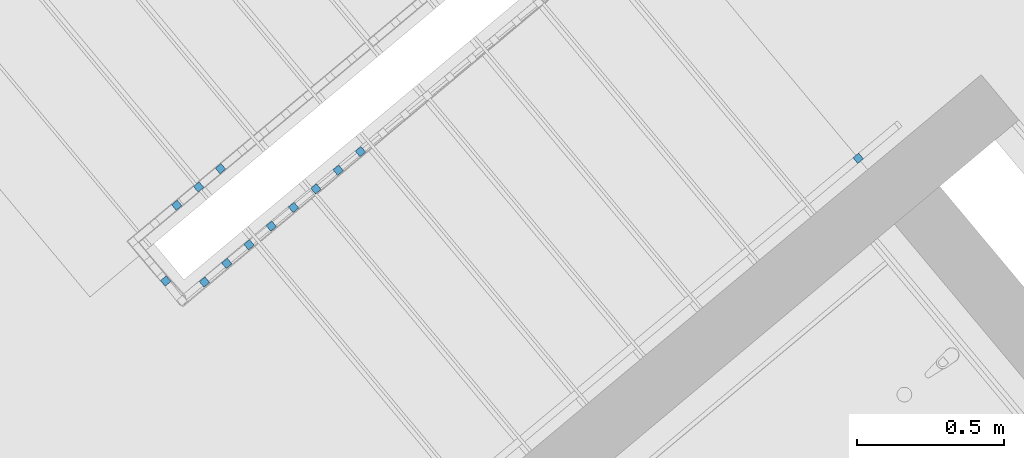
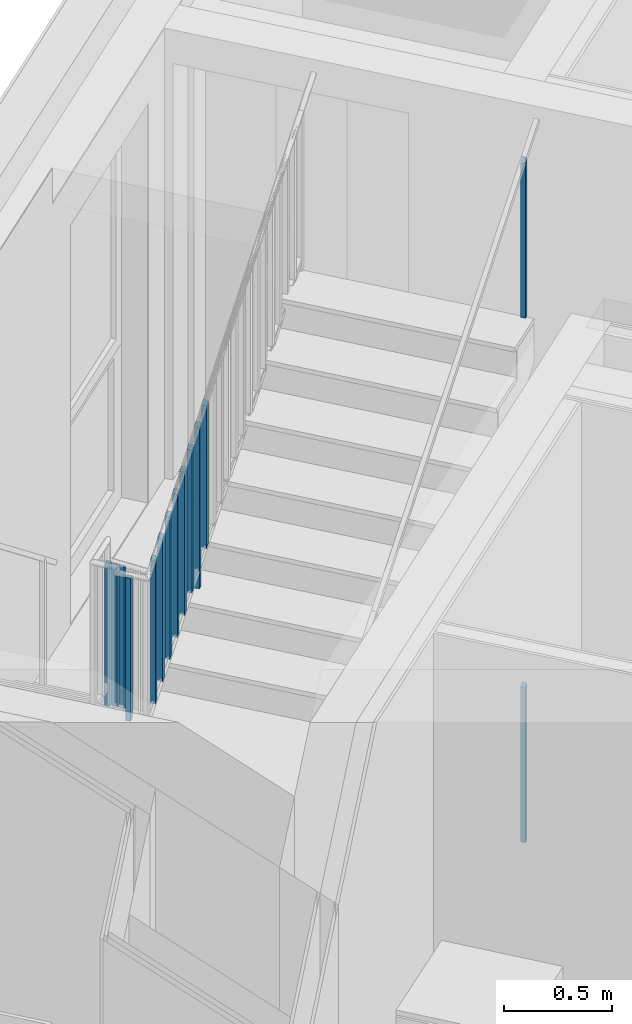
# One storey, part 42 of 53: 14 building element parts, 3 elements without a shape of their own.
"""IFC4 building model written with IfcOpenShell, lengths in metres."""

from ifc_helpers import new_model, entity, si_unit, converted_unit, derived_unit, direction, frame, origin_with_axes, place, context, subcontext, project, spatial, polygons, material, type_object, element, aggregate, save


model = new_model("IFC4")

# Units and contexts
model_context = context("Model", 3, precision=1e-05, world=origin_with_axes(), true_north=direction((0.0, 1.0)))
body_context = subcontext(model_context, "Body", "Model", "MODEL_VIEW")
ifc_project = project(units=[si_unit("LENGTHUNIT", "METRE"), si_unit("AREAUNIT", "SQUARE_METRE"), si_unit("VOLUMEUNIT", "CUBIC_METRE"), converted_unit("PLANEANGLEUNIT", "DEGREE", entity("IfcPlaneAngleMeasure", 0.0174532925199), si_unit("PLANEANGLEUNIT", "RADIAN"), dimensions=[0, 0, 0, 0, 0, 0, 0]), converted_unit("TIMEUNIT", "Year", entity("IfcTimeMeasure", 31556926.0), si_unit("TIMEUNIT", "SECOND"), dimensions=[0, 0, 1, 0, 0, 0, 0]), si_unit("MASSUNIT", "GRAM", prefix="KILO"), si_unit("THERMODYNAMICTEMPERATUREUNIT", "DEGREE_CELSIUS"), si_unit("LUMINOUSINTENSITYUNIT", "LUMEN"), si_unit("ENERGYUNIT", "JOULE", prefix="MEGA"), derived_unit("THERMALCONDUCTANCEUNIT", [(si_unit("POWERUNIT", "WATT"), 1), (si_unit("LENGTHUNIT", "METRE"), -1), (si_unit("THERMODYNAMICTEMPERATUREUNIT", "KELVIN"), -1)]), derived_unit("SPECIFICHEATCAPACITYUNIT", [(si_unit("ENERGYUNIT", "JOULE"), 1), (si_unit("MASSUNIT", "GRAM", prefix="KILO"), -1), (si_unit("THERMODYNAMICTEMPERATUREUNIT", "KELVIN"), -1)]), derived_unit("MASSDENSITYUNIT", [(si_unit("MASSUNIT", "GRAM", prefix="KILO"), 1), (si_unit("VOLUMEUNIT", "CUBIC_METRE"), -1)])], contexts=[model_context])

# Site, building, storey, space
site_placement = place(None, frame((-0.00153261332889, -0.00661245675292, 0.0), z_axis=(0.0, 0.0, 1.0), x_axis=(1.0, 0.0, 0.0)))
site = spatial("IfcSite", under=ifc_project, at=site_placement, Name="Gelände", CompositionType="ELEMENT")
building_placement = place(site_placement, origin_with_axes())
building = spatial("IfcBuilding", under=site, at=building_placement, Name="Gebäude", CompositionType="ELEMENT")
storey_placement = place(building_placement, frame((0.0, 0.0, 2.74), z_axis=(0.0, 0.0, 1.0), x_axis=(1.0, 0.0, 0.0)))
storey = spatial("IfcBuildingStorey", under=building, at=storey_placement, Name="OG1", CompositionType="ELEMENT", Elevation=2.74)
space_1_placement = place(storey_placement, frame((0.186433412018, 25.8823467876, 0.22), z_axis=(0.0, 0.0, 1.0), x_axis=(-0.767365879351, -0.641209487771, 0.0)))
space_1 = spatial("IfcSpace", under=storey, at=space_1_placement, CompositionType="ELEMENT", PredefinedType="NOTDEFINED")

# Railing, building element part
railing_type = type_object("IfcRailingType", Name="Geländerart", PredefinedType="NOTDEFINED")
railing_1_placement = place(space_1_placement, frame((4.02646190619, 2.55537097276, -1.35941176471), z_axis=(0.0, 0.0, 1.0), x_axis=(-0.767365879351, 0.641209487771, 0.0)))
railing_1 = element("IfcRailing", 1, at=railing_1_placement, inside=space_1, type_object=railing_type, Name="Geländer - 002", PredefinedType="NOTDEFINED")
ifc_material = material(Name="BEKLEIDUNG")
building_element_part_1_placement = place(railing_1_placement, origin_with_axes())
building_element_part_1 = element("IfcBuildingElementPart", 2, at=building_element_part_1_placement, material=ifc_material, Name="BEKLEIDUNG", PredefinedType="NOTDEFINED", context=body_context, shape_type="Tessellation", body=[
    polygons([(1.53065542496, 1.32788138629, 1.23941176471), (1.51462518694, 1.34706553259, 1.23941176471), (1.51462518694, 1.34706553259, 2.12710606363), (1.53065542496, 1.32788138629, 2.12710606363), (1.51147127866, 1.31185114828, 1.23941176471), (1.49544104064, 1.33103529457, 1.23941176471), (1.49544104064, 1.33103529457, 2.11171746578), (1.51147127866, 1.31185114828, 2.11171746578)], [[[1, 2, 3, 4]], [[1, 5, 6, 2]], [[2, 6, 7, 3]], [[4, 3, 7, 8]], [[5, 1, 4, 8]], [[6, 5, 8, 7]]], closed=True),
])
aggregate(railing_1, [building_element_part_1])

# Space
space_2_placement = place(storey_placement, frame((0.280300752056, 22.6307267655, 0.22), z_axis=(0.0, 0.0, 1.0), x_axis=(-0.641244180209, 0.767336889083, 0.0)))
space_2 = spatial("IfcSpace", under=storey, at=space_2_placement, CompositionType="ELEMENT", PredefinedType="NOTDEFINED")

# Railing, building element parts
railing_2_placement = place(space_2_placement, frame((1.35982515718, -0.251690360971, -0.17), z_axis=(0.0, 0.0, 1.0), x_axis=(-0.641244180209, -0.767336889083, 0.0)))
railing_2 = element("IfcRailing", 3, at=railing_2_placement, inside=space_2, type_object=railing_type, Name="Geländer - 001", PredefinedType="NOTDEFINED")
building_element_part_2_placement = place(railing_2_placement, origin_with_axes())
building_element_part_2 = element("IfcBuildingElementPart", 4, at=building_element_part_2_placement, material=ifc_material, Name="BEKLEIDUNG", PredefinedType="NOTDEFINED", context=body_context, shape_type="Tessellation", body=[
    polygons([(-1.53388981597, -1.2001382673, 1.58772455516), (-1.51786055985, -1.21932323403, 1.58772455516), (-1.51786055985, -1.21932323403, 2.39522455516), (-1.53388981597, -1.2001382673, 2.39522455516), (-1.51470484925, -1.18410901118, 1.56823254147), (-1.49867559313, -1.20329397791, 1.56823254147), (-1.49867559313, -1.20329397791, 2.37573254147), (-1.51470484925, -1.18410901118, 2.37573254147)], [[[1, 2, 3, 4]], [[1, 5, 6, 2]], [[2, 6, 7, 3]], [[4, 3, 7, 8]], [[5, 1, 4, 8]], [[6, 5, 8, 7]]], closed=True),
])
building_element_part_3_placement = place(railing_2_placement, origin_with_axes())
building_element_part_3 = element("IfcBuildingElementPart", 5, at=building_element_part_3_placement, material=ifc_material, Name="BEKLEIDUNG", PredefinedType="NOTDEFINED", context=body_context, shape_type="Tessellation", body=[
    polygons([(-1.60810102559, -1.2621425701, 1.66312348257), (-1.59207176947, -1.28132753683, 1.66312348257), (-1.59207176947, -1.28132753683, 2.47062348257), (-1.60810102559, -1.2621425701, 2.47062348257), (-1.58891605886, -1.24611331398, 1.64363146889), (-1.57288680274, -1.26529828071, 1.64363146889), (-1.57288680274, -1.26529828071, 2.45113146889), (-1.58891605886, -1.24611331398, 2.45113146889)], [[[1, 2, 3, 4]], [[1, 5, 6, 2]], [[2, 6, 7, 3]], [[4, 3, 7, 8]], [[5, 1, 4, 8]], [[6, 5, 8, 7]]], closed=True),
])
building_element_part_4_placement = place(railing_2_placement, origin_with_axes())
building_element_part_4 = element("IfcBuildingElementPart", 6, at=building_element_part_4_placement, material=ifc_material, Name="BEKLEIDUNG", PredefinedType="NOTDEFINED", context=body_context, shape_type="Tessellation", body=[
    polygons([(-1.6823122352, -1.32414687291, 1.72363814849), (-1.66628297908, -1.34333183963, 1.72363814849), (-1.66628297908, -1.34333183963, 2.53113814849), (-1.6823122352, -1.32414687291, 2.53113814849), (-1.66312726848, -1.30811761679, 1.72363814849), (-1.64709801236, -1.32730258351, 1.72363814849), (-1.64709801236, -1.32730258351, 2.53113814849), (-1.66312726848, -1.30811761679, 2.53113814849)], [[[1, 2, 3, 4]], [[1, 5, 6, 2]], [[2, 6, 7, 3]], [[4, 3, 7, 8]], [[5, 1, 4, 8]], [[6, 5, 8, 7]]], closed=True),
])
building_element_part_5_placement = place(railing_2_placement, origin_with_axes())
building_element_part_5 = element("IfcBuildingElementPart", 7, at=building_element_part_5_placement, material=ifc_material, Name="BEKLEIDUNG", PredefinedType="NOTDEFINED", context=body_context, shape_type="Tessellation", body=[
    polygons([(-1.7035806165, -1.60032774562, 1.80989887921), (-1.6843964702, -1.5842975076, 1.80989887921), (-1.6843964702, -1.5842975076, 2.61739887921), (-1.7035806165, -1.60032774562, 2.61739887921), (-1.71961085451, -1.58114359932, 1.80989887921), (-1.70042670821, -1.5651133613, 1.80989887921), (-1.70042670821, -1.5651133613, 2.61739887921), (-1.71961085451, -1.58114359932, 2.61739887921)], [[[1, 2, 3, 4]], [[1, 5, 6, 2]], [[2, 6, 7, 3]], [[4, 3, 7, 8]], [[5, 1, 4, 8]], [[6, 5, 8, 7]]], closed=True),
])
building_element_part_6_placement = place(railing_2_placement, origin_with_axes())
building_element_part_6 = element("IfcBuildingElementPart", 8, at=building_element_part_6_placement, material=ifc_material, Name="BEKLEIDUNG", PredefinedType="NOTDEFINED", context=body_context, shape_type="Tessellation", body=[
    polygons([(-1.55322027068, -1.58760797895, 1.87805222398), (-1.5692505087, -1.56842383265, 1.87805222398), (-1.5692505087, -1.56842383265, 2.68555222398), (-1.55322027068, -1.58760797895, 2.68555222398), (-1.57240441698, -1.60363821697, 1.86270754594), (-1.588434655, -1.58445407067, 1.86270754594), (-1.588434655, -1.58445407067, 2.67020754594), (-1.57240441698, -1.60363821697, 2.67020754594)], [[[1, 2, 3, 4]], [[1, 5, 6, 2]], [[2, 6, 7, 3]], [[4, 3, 7, 8]], [[5, 1, 4, 8]], [[6, 5, 8, 7]]], closed=True),
])
building_element_part_7_placement = place(railing_2_placement, origin_with_axes())
building_element_part_7 = element("IfcBuildingElementPart", 9, at=building_element_part_7_placement, material=ifc_material, Name="BEKLEIDUNG", PredefinedType="NOTDEFINED", context=body_context, shape_type="Tessellation", body=[
    polygons([(-1.4776060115, -1.52442484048, 1.93853322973), (-1.49363624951, -1.50524069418, 1.93853322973), (-1.49363624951, -1.50524069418, 2.74603322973), (-1.4776060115, -1.52442484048, 2.74603322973), (-1.4967901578, -1.54045507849, 1.92318855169), (-1.51282039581, -1.52127093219, 1.92318855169), (-1.51282039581, -1.52127093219, 2.73068855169), (-1.4967901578, -1.54045507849, 2.73068855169)], [[[1, 2, 3, 4]], [[1, 5, 6, 2]], [[2, 6, 7, 3]], [[4, 3, 7, 8]], [[5, 1, 4, 8]], [[6, 5, 8, 7]]], closed=True),
])
building_element_part_8_placement = place(railing_2_placement, origin_with_axes())
building_element_part_8 = element("IfcBuildingElementPart", 10, at=building_element_part_8_placement, material=ifc_material, Name="BEKLEIDUNG", PredefinedType="NOTDEFINED", context=body_context, shape_type="Tessellation", body=[
    polygons([(-1.40199175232, -1.461241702, 1.99901423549), (-1.41802199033, -1.4420575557, 1.99901423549), (-1.41802199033, -1.4420575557, 2.80651423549), (-1.40199175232, -1.461241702, 2.80651423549), (-1.42117589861, -1.47727194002, 1.98366955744), (-1.43720613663, -1.45808779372, 1.98366955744), (-1.43720613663, -1.45808779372, 2.79116955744), (-1.42117589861, -1.47727194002, 2.79116955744)], [[[1, 2, 3, 4]], [[1, 5, 6, 2]], [[2, 6, 7, 3]], [[4, 3, 7, 8]], [[5, 1, 4, 8]], [[6, 5, 8, 7]]], closed=True),
])
building_element_part_9_placement = place(railing_2_placement, origin_with_axes())
building_element_part_9 = element("IfcBuildingElementPart", 11, at=building_element_part_9_placement, material=ifc_material, Name="BEKLEIDUNG", PredefinedType="NOTDEFINED", context=body_context, shape_type="Tessellation", body=[
    polygons([(-1.32637749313, -1.39805856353, 2.05949524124), (-1.34240773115, -1.37887441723, 2.05949524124), (-1.34240773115, -1.37887441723, 2.86699524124), (-1.32637749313, -1.39805856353, 2.86699524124), (-1.34556163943, -1.41408880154, 2.04415056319), (-1.36159187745, -1.39490465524, 2.04415056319), (-1.36159187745, -1.39490465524, 2.85165056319), (-1.34556163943, -1.41408880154, 2.85165056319)], [[[1, 2, 3, 4]], [[1, 5, 6, 2]], [[2, 6, 7, 3]], [[4, 3, 7, 8]], [[5, 1, 4, 8]], [[6, 5, 8, 7]]], closed=True),
])
building_element_part_10_placement = place(railing_2_placement, origin_with_axes())
building_element_part_10 = element("IfcBuildingElementPart", 12, at=building_element_part_10_placement, material=ifc_material, Name="BEKLEIDUNG", PredefinedType="NOTDEFINED", context=body_context, shape_type="Tessellation", body=[
    polygons([(-1.25076323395, -1.33487542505, 2.11997624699), (-1.26679347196, -1.31569127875, 2.11997624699), (-1.26679347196, -1.31569127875, 2.92747624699), (-1.25076323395, -1.33487542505, 2.92747624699), (-1.26994738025, -1.35090566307, 2.10463156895), (-1.28597761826, -1.33172151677, 2.10463156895), (-1.28597761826, -1.33172151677, 2.91213156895), (-1.26994738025, -1.35090566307, 2.91213156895)], [[[1, 2, 3, 4]], [[1, 5, 6, 2]], [[2, 6, 7, 3]], [[4, 3, 7, 8]], [[5, 1, 4, 8]], [[6, 5, 8, 7]]], closed=True),
])
building_element_part_11_placement = place(railing_2_placement, origin_with_axes())
building_element_part_11 = element("IfcBuildingElementPart", 13, at=building_element_part_11_placement, material=ifc_material, Name="BEKLEIDUNG", PredefinedType="NOTDEFINED", context=body_context, shape_type="Tessellation", body=[
    polygons([(-1.17514897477, -1.27169228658, 2.18045725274), (-1.19117921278, -1.25250814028, 2.18045725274), (-1.19117921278, -1.25250814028, 2.98795725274), (-1.17514897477, -1.27169228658, 2.98795725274), (-1.19433312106, -1.28772252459, 2.1651125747), (-1.21036335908, -1.26853837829, 2.1651125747), (-1.21036335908, -1.26853837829, 2.9726125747), (-1.19433312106, -1.28772252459, 2.9726125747)], [[[1, 2, 3, 4]], [[1, 5, 6, 2]], [[2, 6, 7, 3]], [[4, 3, 7, 8]], [[5, 1, 4, 8]], [[6, 5, 8, 7]]], closed=True),
])
building_element_part_12_placement = place(railing_2_placement, origin_with_axes())
building_element_part_12 = element("IfcBuildingElementPart", 14, at=building_element_part_12_placement, material=ifc_material, Name="BEKLEIDUNG", PredefinedType="NOTDEFINED", context=body_context, shape_type="Tessellation", body=[
    polygons([(-1.09953471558, -1.2085091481, 2.12470588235), (-1.1155649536, -1.1893250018, 2.12470588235), (-1.1155649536, -1.1893250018, 3.05093825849), (-1.09953471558, -1.2085091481, 3.05093825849), (-1.11871886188, -1.22453938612, 2.12470588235), (-1.13474909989, -1.20535523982, 2.12470588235), (-1.13474909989, -1.20535523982, 3.03559358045), (-1.11871886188, -1.22453938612, 3.03559358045)], [[[1, 2, 3, 4]], [[1, 5, 6, 2]], [[2, 6, 7, 3]], [[4, 3, 7, 8]], [[5, 1, 4, 8]], [[6, 5, 8, 7]]], closed=True),
])
building_element_part_13_placement = place(railing_2_placement, origin_with_axes())
building_element_part_13 = element("IfcBuildingElementPart", 15, at=building_element_part_13_placement, material=ifc_material, Name="BEKLEIDUNG", PredefinedType="NOTDEFINED", context=body_context, shape_type="Tessellation", body=[
    polygons([(-1.0239204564, -1.14532600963, 2.30141926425), (-1.03995069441, -1.12614186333, 2.30141926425), (-1.03995069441, -1.12614186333, 3.10891926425), (-1.0239204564, -1.14532600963, 3.10891926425), (-1.0431046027, -1.16135624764, 2.2860745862), (-1.05913484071, -1.14217210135, 2.2860745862), (-1.05913484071, -1.14217210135, 3.0935745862), (-1.0431046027, -1.16135624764, 3.0935745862)], [[[1, 2, 3, 4]], [[1, 5, 6, 2]], [[2, 6, 7, 3]], [[4, 3, 7, 8]], [[5, 1, 4, 8]], [[6, 5, 8, 7]]], closed=True),
])
aggregate(railing_2, [building_element_part_2, building_element_part_3, building_element_part_4, building_element_part_5, building_element_part_6, building_element_part_7, building_element_part_8, building_element_part_9, building_element_part_10, building_element_part_11, building_element_part_12, building_element_part_13])

# Railing, building element part
railing_3_placement = place(space_2_placement, frame((9.09464852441e-05, 2.01352288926, 1.60058823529), z_axis=(0.0, 0.0, 1.0), x_axis=(-0.641244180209, -0.767336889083, 0.0)))
railing_3 = element("IfcRailing", 16, at=railing_3_placement, inside=space_2, type_object=railing_type, Name="Geländer - 002", PredefinedType="NOTDEFINED")
building_element_part_14_placement = place(railing_3_placement, origin_with_axes())
building_element_part_14 = element("IfcBuildingElementPart", 17, at=building_element_part_14_placement, material=ifc_material, Name="BEKLEIDUNG", PredefinedType="NOTDEFINED", context=body_context, shape_type="Tessellation", body=[
    polygons([(1.53065542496, 1.32788138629, 1.23941176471), (1.51462518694, 1.34706553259, 1.23941176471), (1.51462518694, 1.34706553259, 2.12710606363), (1.53065542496, 1.32788138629, 2.12710606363), (1.51147127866, 1.31185114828, 1.23941176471), (1.49544104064, 1.33103529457, 1.23941176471), (1.49544104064, 1.33103529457, 2.11171746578), (1.51147127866, 1.31185114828, 2.11171746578)], [[[1, 2, 3, 4]], [[1, 5, 6, 2]], [[2, 6, 7, 3]], [[4, 3, 7, 8]], [[5, 1, 4, 8]], [[6, 5, 8, 7]]], closed=True),
])
aggregate(railing_3, [building_element_part_14])

save(model, "model.ifc")
